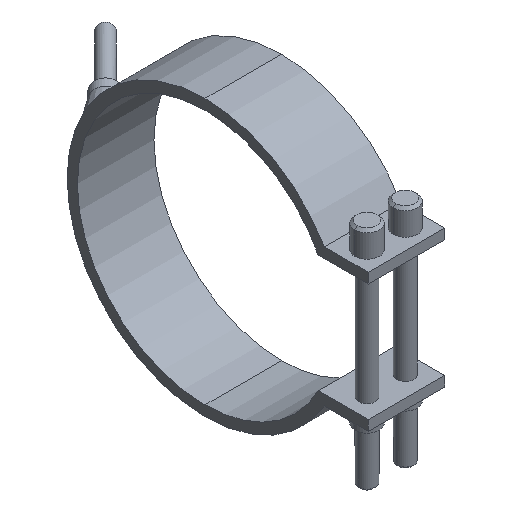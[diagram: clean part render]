
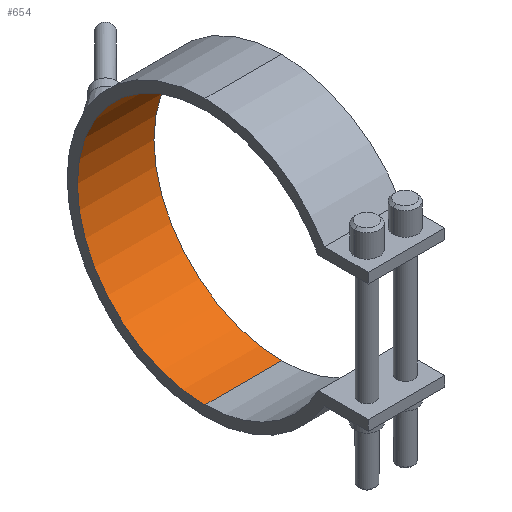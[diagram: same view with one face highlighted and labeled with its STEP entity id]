
A CAD part, isometric view. The second image highlights one B-rep face of the part: STEP entity #654.
In plain terms, the highlighted cylindrical face has radius 50 mm (diameter 100 mm), a partial arc.
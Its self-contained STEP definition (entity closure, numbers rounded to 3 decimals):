
#336=CARTESIAN_POINT('Vertex',(15.,0.,50.)) ;
#341=CARTESIAN_POINT('Axis2P3D Location',(15.,0.,0.)) ;
#345=CARTESIAN_POINT('Vertex',(15.,0.,-50.)) ;
#452=CARTESIAN_POINT('Vertex',(-15.,0.,-50.)) ;
#455=CARTESIAN_POINT('Axis2P3D Location',(-15.,0.,0.)) ;
#459=CARTESIAN_POINT('Vertex',(-15.,0.,50.)) ;
#626=CARTESIAN_POINT('Line Origine',(15.,0.,50.)) ;
#638=CARTESIAN_POINT('Axis2P3D Location',(15.,0.,0.)) ;
#643=CARTESIAN_POINT('Line Origine',(15.,0.,-50.)) ;
#342=DIRECTION('Axis2P3D Direction',(1.,0.,0.)) ;
#456=DIRECTION('Axis2P3D Direction',(1.,0.,0.)) ;
#627=DIRECTION('Vector Direction',(1.,0.,0.)) ;
#639=DIRECTION('Axis2P3D Direction',(1.,0.,-0.)) ;
#640=DIRECTION('Axis2P3D XDirection',(0.,0.,-1.)) ;
#644=DIRECTION('Vector Direction',(1.,0.,0.)) ;
#343=AXIS2_PLACEMENT_3D('Circle Axis2P3D',#341,#342,$) ;
#457=AXIS2_PLACEMENT_3D('Circle Axis2P3D',#455,#456,$) ;
#641=AXIS2_PLACEMENT_3D('Cylinder Axis2P3D',#638,#639,#640) ;
#649=ORIENTED_EDGE('',*,*,#347,.T.) ;
#650=ORIENTED_EDGE('',*,*,#630,.T.) ;
#651=ORIENTED_EDGE('',*,*,#461,.F.) ;
#652=ORIENTED_EDGE('',*,*,#647,.T.) ;
#628=VECTOR('Line Direction',#627,1.) ;
#645=VECTOR('Line Direction',#644,1.) ;
#654=ADVANCED_FACE('29100030',(#653),#642,.F.) ;
#344=CIRCLE('generated circle',#343,50.) ;
#458=CIRCLE('generated circle',#457,50.) ;
#642=CYLINDRICAL_SURFACE('generated cylinder',#641,50.) ;
#347=EDGE_CURVE('',#346,#337,#344,.T.) ;
#461=EDGE_CURVE('',#453,#460,#458,.T.) ;
#630=EDGE_CURVE('',#337,#460,#629,.F.) ;
#647=EDGE_CURVE('',#453,#346,#646,.T.) ;
#648=EDGE_LOOP('',(#649,#650,#651,#652)) ;
#653=FACE_OUTER_BOUND('',#648,.T.) ;
#629=LINE('Line',#626,#628) ;
#646=LINE('Line',#643,#645) ;
#337=VERTEX_POINT('',#336) ;
#346=VERTEX_POINT('',#345) ;
#453=VERTEX_POINT('',#452) ;
#460=VERTEX_POINT('',#459) ;
